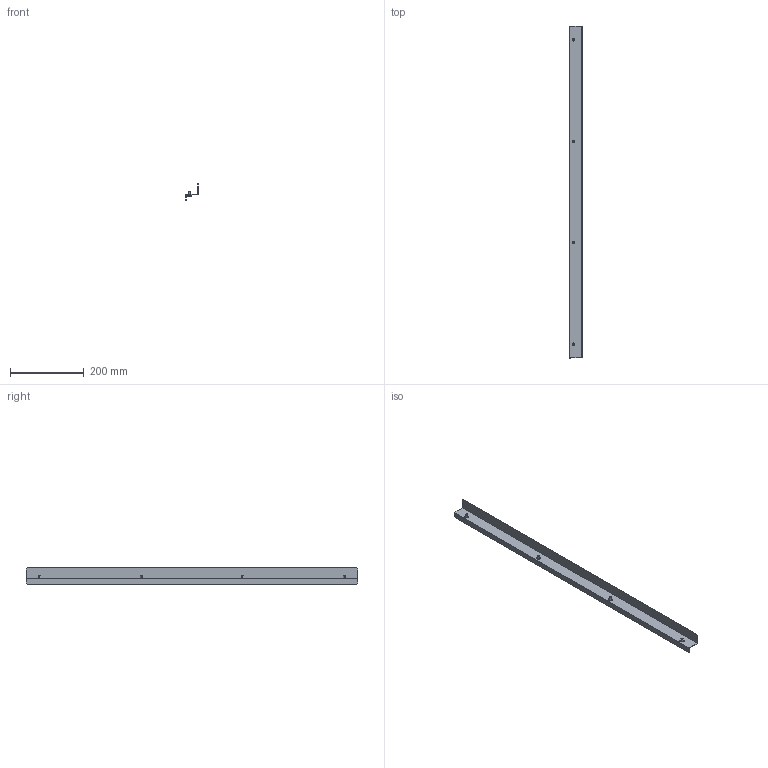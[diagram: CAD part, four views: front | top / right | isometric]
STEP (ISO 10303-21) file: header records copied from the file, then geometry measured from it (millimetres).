
FILE_DESCRIPTION (( 'STEP AP214' ), '1' );
FILE_NAME ('FO-00-BPS2-100 FORMAT Ïëàíêà ñåêö. êîìïåíñàö. òèï 2 â øêàô 1000 IEK.STEP', '2025-08-13T07:11:23', ( '' ), ( '' ), 'SwSTEP 2.0', 'SolidWorks 2023', '' );
FILE_SCHEMA (( 'AUTOMOTIVE_DESIGN' ));
Length unit declared in the file: millimetre
Products named in the file (1): FO-00-BPS2-100 FORMAT Планка секц. компенсац. тип 2 в шкаф 1000 IEK
Bounding box: 33.5 x 900 x 44 mm (x, y, z)
Volume: 105155.7 mm3; surface area: 141236.9 mm2
Topology: 1 solids, 1 shells, 154 faces, 376 edges, 240 vertices
Faces by surface type: cylinder 84, plane 38, cone 16, torus 16
Entity records: 4623 total; most frequent: DIRECTION 902, CARTESIAN_POINT 771, ORIENTED_EDGE 752, EDGE_CURVE 376, AXIS2_PLACEMENT_3D 371, VERTEX_POINT 240, CIRCLE 216, EDGE_LOOP 170
